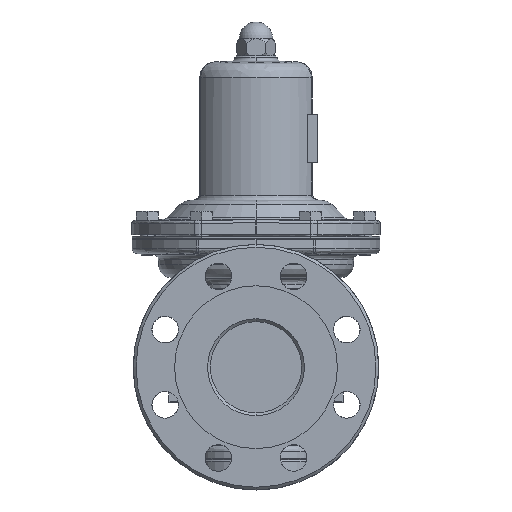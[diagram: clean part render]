
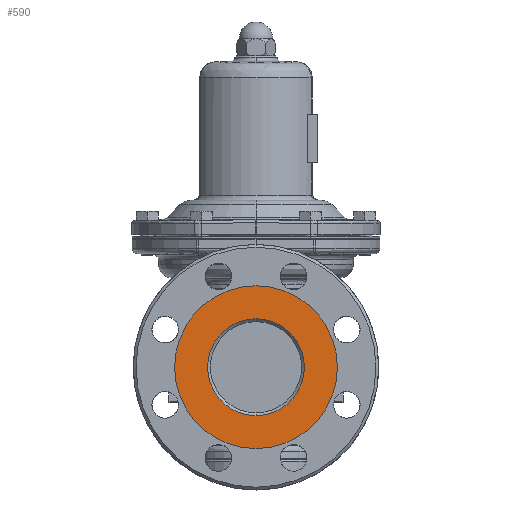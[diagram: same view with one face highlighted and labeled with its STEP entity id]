
A CAD part, left-side view. The second image highlights one B-rep face of the part: STEP entity #590.
In plain terms, the highlighted planar face has unit normal (-1, 0, 0).
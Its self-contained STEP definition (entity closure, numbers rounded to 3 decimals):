
#590=ADVANCED_FACE('',(#3009,#3010),#3008,.T.);
#3008=PLANE('',#9970);
#3009=FACE_OUTER_BOUND('',#9971,.T.);
#3010=FACE_BOUND('',#9972,.T.);
#9967=CARTESIAN_POINT('',(-112.5,-110.459,-120.));
#9968=DIRECTION('',(-1.,0.,0.));
#9969=DIRECTION('',(0.,0.,1.));
#9970=AXIS2_PLACEMENT_3D('',#9967,#9968,#9969);
#9971=EDGE_LOOP('',(#16239,#16240));
#9972=EDGE_LOOP('',(#16241,#16242));
#16239=ORIENTED_EDGE('',*,*,#19194,.T.);
#16240=ORIENTED_EDGE('',*,*,#19195,.T.);
#16241=ORIENTED_EDGE('',*,*,#19196,.F.);
#16242=ORIENTED_EDGE('',*,*,#19197,.F.);
#19194=EDGE_CURVE('',#24910,#24911,#24912,.T.);
#19195=EDGE_CURVE('',#24911,#24910,#24918,.T.);
#19196=EDGE_CURVE('',#24924,#24925,#24926,.T.);
#19197=EDGE_CURVE('',#24925,#24924,#24932,.T.);
#24910=VERTEX_POINT('',#36346);
#24911=VERTEX_POINT('',#36347);
#24912=CIRCLE('',#36351,58.);
#24918=CIRCLE('',#36355,58.);
#24924=VERTEX_POINT('',#36356);
#24925=VERTEX_POINT('',#36357);
#24926=CIRCLE('',#36361,34.5);
#24932=CIRCLE('',#36365,34.5);
#36346=CARTESIAN_POINT('',(-112.5,0.,64.));
#36347=CARTESIAN_POINT('',(-112.5,0.,-52.));
#36348=CARTESIAN_POINT('',(-112.5,0.,6.));
#36349=DIRECTION('',(-1.,0.,0.));
#36350=DIRECTION('',(0.,0.,1.));
#36351=AXIS2_PLACEMENT_3D('',#36348,#36349,#36350);
#36352=CARTESIAN_POINT('',(-112.5,0.,6.));
#36353=DIRECTION('',(-1.,0.,0.));
#36354=DIRECTION('',(0.,0.,1.));
#36355=AXIS2_PLACEMENT_3D('',#36352,#36353,#36354);
#36356=CARTESIAN_POINT('',(-112.5,0.,-28.5));
#36357=CARTESIAN_POINT('',(-112.5,0.,40.5));
#36358=CARTESIAN_POINT('',(-112.5,0.,6.));
#36359=DIRECTION('',(-1.,0.,0.));
#36360=DIRECTION('',(0.,0.,1.));
#36361=AXIS2_PLACEMENT_3D('',#36358,#36359,#36360);
#36362=CARTESIAN_POINT('',(-112.5,0.,6.));
#36363=DIRECTION('',(-1.,0.,0.));
#36364=DIRECTION('',(0.,0.,1.));
#36365=AXIS2_PLACEMENT_3D('',#36362,#36363,#36364);
